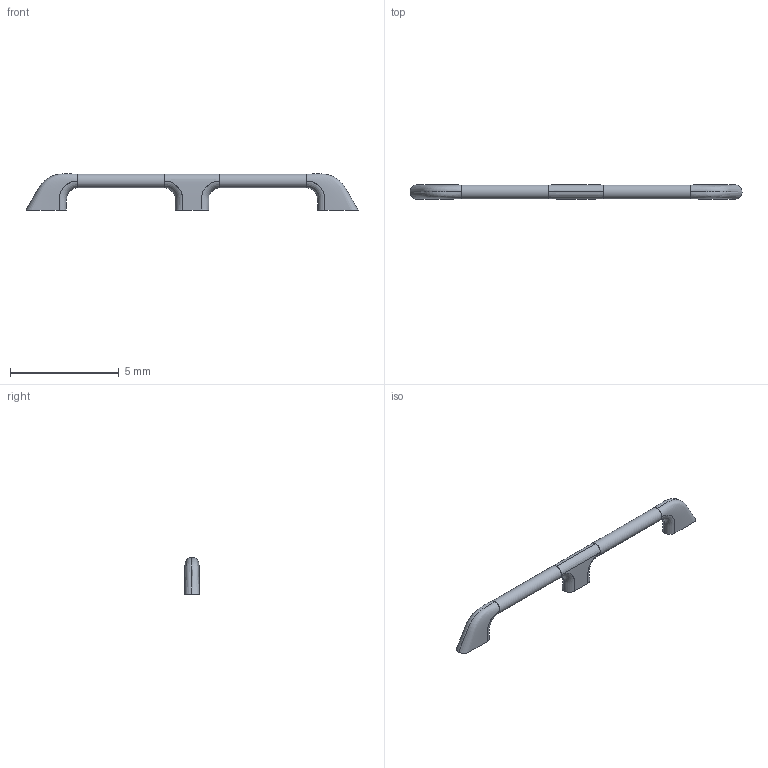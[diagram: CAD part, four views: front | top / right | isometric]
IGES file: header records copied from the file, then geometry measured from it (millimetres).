
Start section: IGES file generated from a XCAD drawing
Global section: file name: C:\Documents and Settings\Bill Harris\Desktop\UPLOADS\handles\smallwood.igs; native system: XCAD 3.1; preprocessor: XCAD IGES Translator v1.0; author: NONAME; organization: nautika watercraft; date: 1060817.150126; units: inch
Bounding box: 15.24 x 0.66 x 1.66 mm (x, y, z)
Surface area: 38 mm2 (no closed solid volume)
Topology: 0 solids, 0 shells, 18 faces, 70 edges, 68 vertices
Faces by surface type: bspline 18
